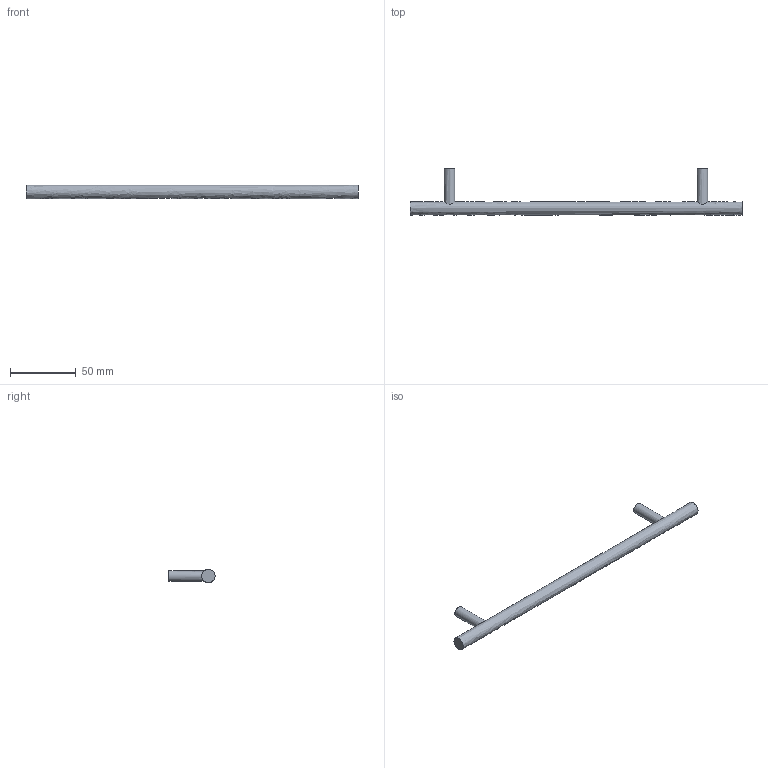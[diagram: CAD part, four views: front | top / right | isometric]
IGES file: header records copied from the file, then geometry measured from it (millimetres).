
Start section: Data from Parasolid IGES Translator 15.0.47, Copyright(c) 2006 Siemens P LM Software. All Rights Reserved.
Global section: file name: 9070982.igs; native system:  By UGS Corp.; preprocessor: XPlus GENERIC/IGES 3.0; author: Noname; organization: Noname; date: 20140122.181224; units: millimetre
Bounding box: 252 x 35 x 10 mm (x, y, z)
Surface area: 9668.2 mm2 (no closed solid volume)
Topology: 0 solids, 0 shells, 11 faces, 30 edges, 22 vertices
Faces by surface type: extrusion 6, revolution 5
